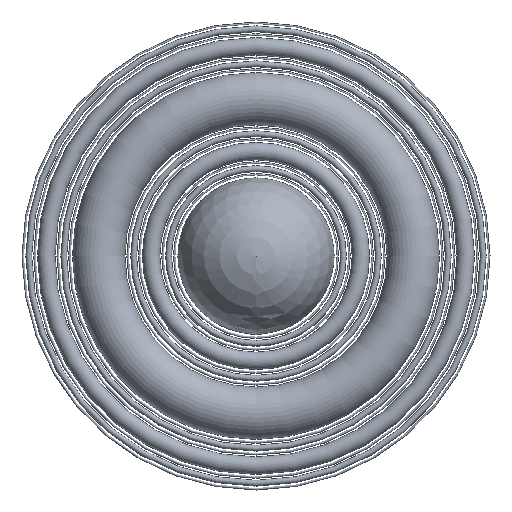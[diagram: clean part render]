
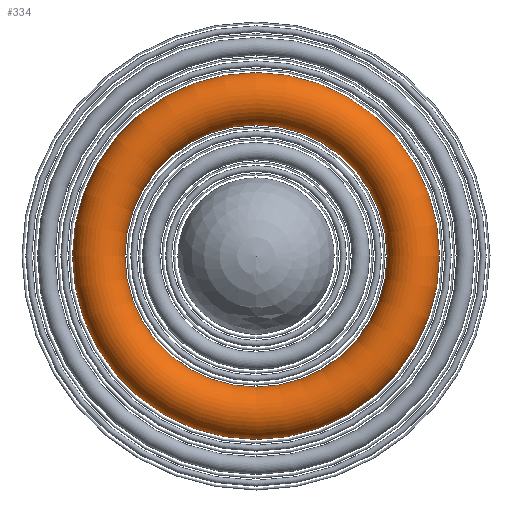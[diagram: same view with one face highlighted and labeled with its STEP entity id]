
A CAD part, front view. The second image highlights one B-rep face of the part: STEP entity #334.
In plain terms, the highlighted toroidal (fillet/blend) face has major radius 6561 mm and minor radius 1093.5 mm.
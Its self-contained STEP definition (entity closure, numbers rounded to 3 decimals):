
#108 = DIRECTION ( 'NONE',  ( 1., 0., 0. ) ) ;
#208 = AXIS2_PLACEMENT_3D ( 'NONE', #276, #391, #108 ) ;
#276 = CARTESIAN_POINT ( 'NONE',  ( 0., 0., 0. ) ) ;
#334 = ADVANCED_FACE ( 'NONE', ( ), #375, .T. ) ;
#375 = TOROIDAL_SURFACE ( 'NONE', #208, 6561, 1093.5 ) ;
#391 = DIRECTION ( 'NONE',  ( 0., -1., 0 ) ) ;
